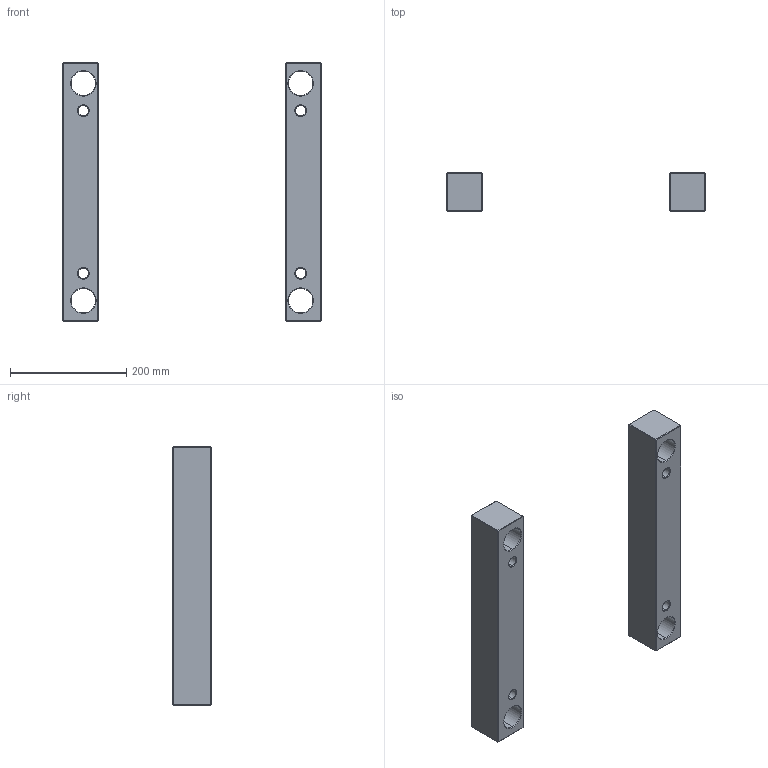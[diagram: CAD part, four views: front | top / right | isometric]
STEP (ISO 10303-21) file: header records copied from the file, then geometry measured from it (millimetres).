
FILE_DESCRIPTION (( 'STEP AP214' ), '1' );
FILE_NAME ('ESP-EU-446X446x66.STEP', '2020-04-16T11:48:36', ( 'August' ), ( '' ), 'SwSTEP 2.0', 'SolidWorks 2018', '' );
FILE_SCHEMA (( 'AUTOMOTIVE_DESIGN' ));
Length unit declared in the file: millimetre
Products named in the file (1): ESP-EU-446X446x66
Bounding box: 446 x 66 x 446 mm (x, y, z)
Volume: 3214071.3 mm3; surface area: 277805.1 mm2
Topology: 2 solids, 2 shells, 100 faces, 208 edges, 112 vertices
Faces by surface type: plane 52, cone 32, cylinder 16
Entity records: 2631 total; most frequent: DIRECTION 474, CARTESIAN_POINT 421, ORIENTED_EDGE 416, EDGE_CURVE 208, AXIS2_PLACEMENT_3D 165, LINE 144, VECTOR 144, EDGE_LOOP 116
